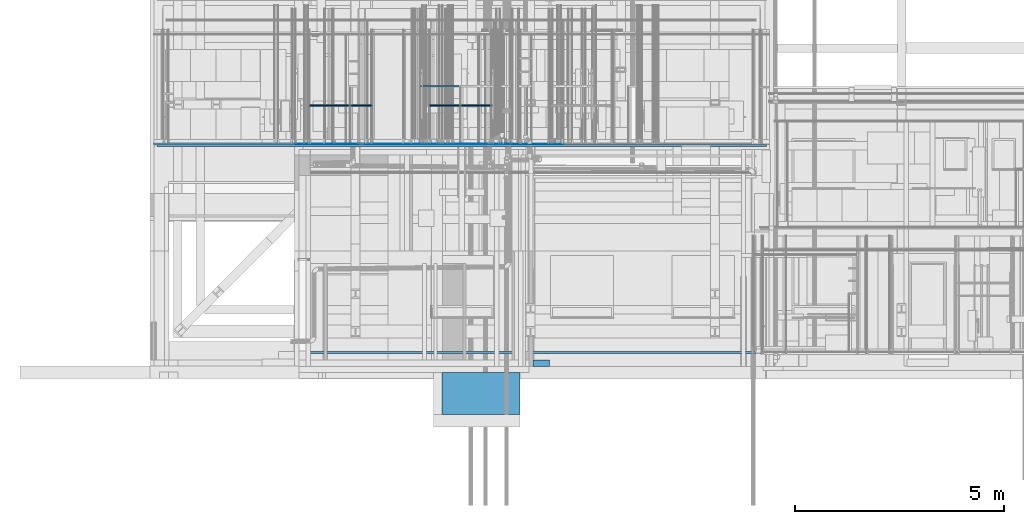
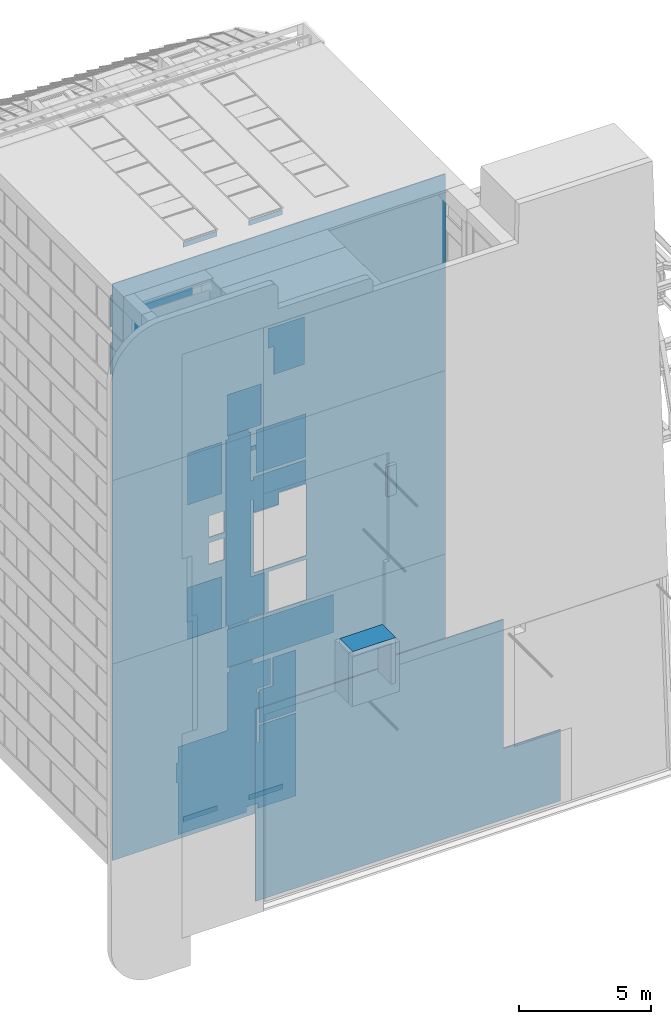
# One storey, part 244 of 583: 25 slabs.
"""IFC2X3 building model written with IfcOpenShell, lengths in metres."""

from ifc_helpers import new_model, entity, si_unit, converted_unit, derived_unit, money_unit, direction, frame, origin_with_axes, place, context, subcontext, project, spatial, faceted_brep, material, type_object, element, save


model = new_model("IFC2X3")

# Units and contexts
model_context = context("Model", 3, precision=1e-05, world=origin_with_axes(), true_north=direction((0.0, 1.0)))
body_context = subcontext(model_context, "Body", "Model", "MODEL_VIEW", scale=1.0)
ifc_project = project(units=[si_unit("LENGTHUNIT", "METRE"), si_unit("AREAUNIT", "SQUARE_METRE"), si_unit("VOLUMEUNIT", "CUBIC_METRE"), si_unit("ABSORBEDDOSEUNIT", "GRAY"), si_unit("AMOUNTOFSUBSTANCEUNIT", "MOLE"), si_unit("DOSEEQUIVALENTUNIT", "SIEVERT"), si_unit("ELECTRICCAPACITANCEUNIT", "FARAD"), si_unit("ELECTRICCHARGEUNIT", "COULOMB"), si_unit("ELECTRICCONDUCTANCEUNIT", "SIEMENS"), si_unit("ELECTRICCURRENTUNIT", "AMPERE"), si_unit("ELECTRICRESISTANCEUNIT", "OHM"), si_unit("ELECTRICVOLTAGEUNIT", "VOLT"), si_unit("ENERGYUNIT", "JOULE"), si_unit("FORCEUNIT", "NEWTON"), si_unit("FREQUENCYUNIT", "HERTZ"), si_unit("ILLUMINANCEUNIT", "LUX"), si_unit("INDUCTANCEUNIT", "HENRY"), si_unit("LUMINOUSFLUXUNIT", "LUMEN"), si_unit("LUMINOUSINTENSITYUNIT", "CANDELA"), si_unit("MAGNETICFLUXDENSITYUNIT", "TESLA"), si_unit("MAGNETICFLUXUNIT", "WEBER"), si_unit("MASSUNIT", "GRAM"), converted_unit("PLANEANGLEUNIT", "degree", entity("IfcReal", 0.0174532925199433), si_unit("PLANEANGLEUNIT", "RADIAN"), dimensions=[0, 0, 0, 0, 0, 0, 0]), si_unit("POWERUNIT", "WATT"), si_unit("PRESSUREUNIT", "PASCAL"), si_unit("RADIOACTIVITYUNIT", "BECQUEREL"), si_unit("SOLIDANGLEUNIT", "STERADIAN"), si_unit("THERMODYNAMICTEMPERATUREUNIT", "KELVIN"), si_unit("TIMEUNIT", "SECOND"), derived_unit("ACCELERATIONUNIT", [(si_unit("LENGTHUNIT", "METRE"), 1), (si_unit("TIMEUNIT", "SECOND"), -2)]), derived_unit("ANGULARVELOCITYUNIT", [(converted_unit("PLANEANGLEUNIT", "degree", entity("IfcReal", 0.0174532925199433), si_unit("PLANEANGLEUNIT", "RADIAN"), dimensions=[0, 0, 0, 0, 0, 0, 0]), 1), (si_unit("TIMEUNIT", "SECOND"), -1)]), derived_unit("CURVATUREUNIT", [(converted_unit("PLANEANGLEUNIT", "degree", entity("IfcReal", 0.0174532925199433), si_unit("PLANEANGLEUNIT", "RADIAN"), dimensions=[0, 0, 0, 0, 0, 0, 0]), 1), (si_unit("LENGTHUNIT", "METRE"), -1)]), derived_unit("DYNAMICVISCOSITYUNIT", [(si_unit("PRESSUREUNIT", "PASCAL"), 1), (si_unit("TIMEUNIT", "SECOND"), 1)]), derived_unit("HEATFLUXDENSITYUNIT", [(si_unit("POWERUNIT", "WATT"), 1), (si_unit("LENGTHUNIT", "METRE"), -2)]), derived_unit("HEATINGVALUEUNIT", [(si_unit("ENERGYUNIT", "JOULE"), 1), (si_unit("MASSUNIT", "GRAM"), -1)]), derived_unit("INTEGERCOUNTRATEUNIT", [(si_unit("TIMEUNIT", "SECOND"), -1)]), derived_unit("IONCONCENTRATIONUNIT", [(si_unit("MASSUNIT", "GRAM"), 1), (si_unit("VOLUMEUNIT", "CUBIC_METRE"), -1)]), derived_unit("ISOTHERMALMOISTURECAPACITYUNIT", [(si_unit("VOLUMEUNIT", "CUBIC_METRE"), 1), (si_unit("MASSUNIT", "GRAM"), -1)]), derived_unit("KINEMATICVISCOSITYUNIT", [(si_unit("AREAUNIT", "SQUARE_METRE"), 1), (si_unit("TIMEUNIT", "SECOND"), -1)]), derived_unit("LINEARFORCEUNIT", [(si_unit("FORCEUNIT", "NEWTON"), 1), (si_unit("LENGTHUNIT", "METRE"), -1)]), derived_unit("LINEARMOMENTUNIT", [(si_unit("FORCEUNIT", "NEWTON"), 1), (si_unit("LENGTHUNIT", "METRE"), -1)]), derived_unit("LINEARSTIFFNESSUNIT", [(si_unit("FORCEUNIT", "NEWTON"), 1), (si_unit("LENGTHUNIT", "METRE"), -1)]), derived_unit("LINEARVELOCITYUNIT", [(si_unit("LENGTHUNIT", "METRE"), 1), (si_unit("TIMEUNIT", "SECOND"), -1)]), derived_unit("LUMINOUSINTENSITYDISTRIBUTIONUNIT", [(si_unit("LUMINOUSINTENSITYUNIT", "CANDELA"), 1), (si_unit("LUMINOUSFLUXUNIT", "LUMEN"), -1)]), derived_unit("MASSDENSITYUNIT", [(si_unit("MASSUNIT", "GRAM"), 1), (si_unit("VOLUMEUNIT", "CUBIC_METRE"), -1)]), derived_unit("MASSFLOWRATEUNIT", [(si_unit("MASSUNIT", "GRAM"), 1), (si_unit("TIMEUNIT", "SECOND"), -1)]), derived_unit("MASSPERLENGTHUNIT", [(si_unit("MASSUNIT", "GRAM"), 1), (si_unit("LENGTHUNIT", "METRE"), -1)]), derived_unit("MODULUSOFELASTICITYUNIT", [(si_unit("FORCEUNIT", "NEWTON"), 1), (si_unit("AREAUNIT", "SQUARE_METRE"), -1)]), derived_unit("MODULUSOFLINEARSUBGRADEREACTIONUNIT", [(si_unit("FORCEUNIT", "NEWTON"), 1), (si_unit("LENGTHUNIT", "METRE"), -2)]), derived_unit("MODULUSOFROTATIONALSUBGRADEREACTIONUNIT", [(si_unit("FORCEUNIT", "NEWTON"), 1), (si_unit("LENGTHUNIT", "METRE"), 1)]), derived_unit("MODULUSOFSUBGRADEREACTIONUNIT", [(si_unit("FORCEUNIT", "NEWTON"), 1), (si_unit("VOLUMEUNIT", "CUBIC_METRE"), -1)]), derived_unit("MOISTUREDIFFUSIVITYUNIT", [(si_unit("VOLUMEUNIT", "CUBIC_METRE"), 1), (si_unit("TIMEUNIT", "SECOND"), -1)]), derived_unit("MOLECULARWEIGHTUNIT", [(si_unit("MASSUNIT", "GRAM"), 1), (si_unit("AMOUNTOFSUBSTANCEUNIT", "MOLE"), -1)]), derived_unit("PLANARFORCEUNIT", [(si_unit("FORCEUNIT", "NEWTON"), 1), (si_unit("LENGTHUNIT", "METRE"), -2)]), derived_unit("ROTATIONALFREQUENCYUNIT", [(si_unit("TIMEUNIT", "SECOND"), -1)]), derived_unit("ROTATIONALMASSUNIT", [(si_unit("MASSUNIT", "GRAM"), 1), (si_unit("LENGTHUNIT", "METRE"), 2)]), derived_unit("ROTATIONALSTIFFNESSUNIT", [(si_unit("FORCEUNIT", "NEWTON"), 1), (si_unit("LENGTHUNIT", "METRE"), 1), (converted_unit("PLANEANGLEUNIT", "degree", entity("IfcReal", 0.0174532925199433), si_unit("PLANEANGLEUNIT", "RADIAN"), dimensions=[0, 0, 0, 0, 0, 0, 0]), -1)]), derived_unit("SECTIONAREAINTEGRALUNIT", [(si_unit("LENGTHUNIT", "METRE"), 5)]), derived_unit("SECTIONMODULUSUNIT", [(si_unit("LENGTHUNIT", "METRE"), 3)]), derived_unit("SHEARMODULUSUNIT", [(si_unit("FORCEUNIT", "NEWTON"), 1), (si_unit("AREAUNIT", "SQUARE_METRE"), -1)]), derived_unit("SOUNDPOWERUNIT", [(si_unit("ENERGYUNIT", "JOULE"), 1), (si_unit("TIMEUNIT", "SECOND"), -1)]), derived_unit("SPECIFICHEATCAPACITYUNIT", [(si_unit("FORCEUNIT", "NEWTON"), 1), (si_unit("MASSUNIT", "GRAM"), -1), (si_unit("THERMODYNAMICTEMPERATUREUNIT", "KELVIN"), -1)]), derived_unit("TEMPERATUREGRADIENTUNIT", [(si_unit("THERMODYNAMICTEMPERATUREUNIT", "KELVIN"), 1), (si_unit("LENGTHUNIT", "METRE"), -1)]), derived_unit("THERMALADMITTANCEUNIT", [(si_unit("POWERUNIT", "WATT"), 1), (si_unit("AREAUNIT", "SQUARE_METRE"), -1), (si_unit("THERMODYNAMICTEMPERATUREUNIT", "KELVIN"), -1)]), derived_unit("THERMALCONDUCTANCEUNIT", [(si_unit("POWERUNIT", "WATT"), 1), (si_unit("LENGTHUNIT", "METRE"), -1), (si_unit("THERMODYNAMICTEMPERATUREUNIT", "KELVIN"), -1)]), derived_unit("THERMALEXPANSIONCOEFFICIENTUNIT", [(si_unit("THERMODYNAMICTEMPERATUREUNIT", "KELVIN"), -1)]), derived_unit("THERMALRESISTANCEUNIT", [(si_unit("AREAUNIT", "SQUARE_METRE"), 1), (si_unit("POWERUNIT", "WATT"), -1)]), derived_unit("THERMALTRANSMITTANCEUNIT", [(si_unit("POWERUNIT", "WATT"), 1), (si_unit("AREAUNIT", "SQUARE_METRE"), -1), (si_unit("THERMODYNAMICTEMPERATUREUNIT", "KELVIN"), -1)]), derived_unit("TORQUEUNIT", [(si_unit("FORCEUNIT", "NEWTON"), 1), (si_unit("LENGTHUNIT", "METRE"), 1)]), derived_unit("VAPORPERMEABILITYUNIT", [(si_unit("MASSUNIT", "GRAM"), 1), (si_unit("TIMEUNIT", "SECOND"), -1)]), derived_unit("VOLUMETRICFLOWRATEUNIT", [(si_unit("VOLUMEUNIT", "CUBIC_METRE"), 1), (si_unit("TIMEUNIT", "SECOND"), -1)]), derived_unit("WARPINGCONSTANTUNIT", [(si_unit("LENGTHUNIT", "METRE"), 6)]), derived_unit("WARPINGMOMENTUNIT", [(si_unit("FORCEUNIT", "NEWTON"), 1), (si_unit("LENGTHUNIT", "METRE"), 2)]), money_unit("GBP")], contexts=[model_context])

# Site, building, storey
site_placement = place(None, origin_with_axes())
site = spatial("IfcSite", under=ifc_project, at=site_placement, Name="Site", CompositionType="ELEMENT")
building_placement = place(site_placement, origin_with_axes())
building = spatial("IfcBuilding", under=site, at=building_placement, Name="Building01", CompositionType="ELEMENT")
storey_placement = place(building_placement, frame((0.0, 0.0, 20.78), z_axis=(0.0, 0.0, 1.0), x_axis=(1.0, 0.0, 0.0)))
storey = spatial("IfcBuildingStorey", under=building, at=storey_placement, Name="RL", CompositionType="ELEMENT", Elevation=20.78)

# Slabs
ifc_material_1 = material(Name="A_BSUK_Slabs")
slab_type = type_object("IfcSlabType", Name="A-FloorsSlabs A_BSUK_Slabs", PredefinedType="FLOOR")
placement = place(storey_placement, frame((0.0, 0.0, -20.78), z_axis=(0.0, 0.0, 1.0), x_axis=(1.0, 0.0, 0.0)))
element("IfcSlab", 1, at=placement, inside=storey, type_object=slab_type, material=ifc_material_1, Name="A-FloorsSlabs A_BSUK_Slabs", ObjectType="CompoundSlabLeaf", context=body_context, shape_type="Brep", body=[
    faceted_brep([(14.4, 0.148, 3.380525), (14.4, 0.198, 3.380525), (14.4, 0.198, 9.343127), (14.4, 0.148, 9.343127), (16.893628, 0.148, 3.380525), (16.893628, 0.198, 3.380525), (16.893493, 0.148, 0.089614), (16.893493, 0.198, 0.089614), (3.559332, 0.148, 0.10035), (3.559332, 0.198, 0.10035), (3.559165, 0.148, 8.965099), (3.559165, 0.198, 8.965099), (9.049365, 0.148, 8.965226), (9.049365, 0.198, 8.965226), (9.049365, 0.148, 9.343127), (9.049365, 0.198, 9.343127)], [[[0, 1, 2, 3]], [[4, 5, 1, 0]], [[6, 7, 5, 4]], [[8, 9, 7, 6]], [[10, 11, 9, 8]], [[12, 13, 11, 10]], [[14, 15, 13, 12]], [[3, 2, 15, 14]], [[1, 5, 7, 9, 11, 13, 15, 2]], [[3, 14, 12, 10, 8, 6, 4, 0]]]),
])
element("IfcSlab", 2, at=placement, inside=storey, type_object=slab_type, material=ifc_material_1, Name="A-FloorsSlabs A_BSUK_Slabs", ObjectType="CompoundSlabLeaf", context=body_context, shape_type="Brep", body=[
    faceted_brep([(8.64741, -1.3, 9.23), (8.64741, -0.3, 9.23), (8.84741, -0.3, 9.23), (8.84741, -1.3, 9.23), (8.64741, -1.3, 11.13), (8.64741, -0.3, 11.13), (6.98, -1.3, 11.13), (6.98, -0.3, 11.13), (6.98, -1.3, 11.33), (6.98, -0.3, 11.33), (8.84741, -1.3, 11.33), (8.84741, -0.3, 11.33), (8.84741, -1.3, 11.13), (8.84741, -0.3, 11.13)], [[[0, 1, 2, 3]], [[4, 5, 1, 0]], [[6, 7, 5, 4]], [[8, 9, 7, 6]], [[10, 11, 9, 8]], [[12, 13, 11, 10]], [[3, 2, 13, 12]], [[1, 5, 7, 9, 11, 13, 2]], [[3, 12, 10, 8, 6, 4, 0]]]),
])
element("IfcSlab", 3, at=placement, inside=storey, type_object=slab_type, material=ifc_material_1, Name="A-FloorsSlabs A_BSUK_Slabs", ObjectType="CompoundSlabLeaf", context=body_context, shape_type="Brep", body=[
    faceted_brep([(9.152854, -0.16, 17.018566), (9.152854, 0.0, 17.018566), (9.542818, 0.0, 17.018566), (9.542818, -0.16, 17.018566), (9.152854, -0.16, 18.418566), (9.152854, 0.0, 18.418566), (9.542765, -0.16, 18.418566), (9.542765, 0.0, 18.418566)], [[[0, 1, 2, 3]], [[4, 5, 1, 0]], [[6, 7, 5, 4]], [[3, 2, 7, 6]], [[1, 5, 7, 2]], [[3, 6, 4, 0]]]),
])
ifc_material_2 = material(Name="A_BSUK_InternalFinishes_FloorScreed")
element("IfcSlab", 4, at=placement, inside=storey, type_object=slab_type, material=ifc_material_2, Name="A-FloorsSlabs A_BSUK_Slabs", ObjectType="CompoundSlabLeaf", context=body_context, shape_type="Brep", body=[
    faceted_brep([(14.73, 5.1, 0.17), (14.73, 5.15, 0.17), (14.73, 5.15, 9.25), (14.73, 5.1, 9.25), (0.17, 5.1, 0.17), (0.17, 5.15, 0.17), (0.17, 5.1, 9.25), (0.17, 5.15, 9.25)], [[[0, 1, 2, 3]], [[4, 5, 1, 0]], [[6, 7, 5, 4]], [[3, 2, 7, 6]], [[1, 5, 7, 2]], [[3, 6, 4, 0]]]),
])
element("IfcSlab", 5, at=placement, inside=storey, type_object=slab_type, material=ifc_material_2, Name="A-FloorsSlabs A_BSUK_Slabs", ObjectType="CompoundSlabLeaf", context=body_context, shape_type="Brep", body=[
    faceted_brep([(14.73, 5.1, 17.73), (14.73, 5.15, 17.73), (14.73, 5.15, 26.81), (14.73, 5.1, 26.81), (0.17, 5.1, 17.73), (0.17, 5.15, 17.73), (0.17, 5.1, 26.81), (0.17, 5.15, 26.81)], [[[0, 1, 2, 3]], [[4, 5, 1, 0]], [[6, 7, 5, 4]], [[3, 2, 7, 6]], [[1, 5, 7, 2]], [[3, 6, 4, 0]]]),
])
element("IfcSlab", 6, at=placement, inside=storey, type_object=slab_type, material=ifc_material_2, Name="A-FloorsSlabs A_BSUK_Slabs", ObjectType="CompoundSlabLeaf", context=body_context, shape_type="Brep", body=[
    faceted_brep([(8.65, 5.15, 11.13), (6.98, 5.15, 11.13), (6.98, 5.15, 9.25), (0.17, 5.15, 9.25), (0.17, 5.15, 17.73), (14.73, 5.15, 17.73), (14.73, 5.15, 9.25), (8.65, 5.15, 9.25), (5.05385, 5.15, 13.375), (4.389428, 5.15, 13.375), (4.389428, 5.15, 12.375), (5.05385, 5.15, 12.375), (5.05385, 5.15, 14.625), (4.389428, 5.15, 14.625), (4.389428, 5.15, 13.625), (5.05385, 5.15, 13.625), (6.35, 5.15, 14.059316), (6.35, 5.15, 11.3), (8.65, 5.15, 11.3), (8.65, 5.15, 14.609584), (7.454282, 5.15, 14.609584), (7.454282, 5.15, 14.059316), (8.65, 5.1, 11.13), (8.65, 5.1, 9.25), (14.73, 5.1, 9.25), (14.73, 5.1, 17.73), (0.17, 5.1, 17.73), (0.17, 5.1, 9.25), (6.98, 5.1, 9.25), (6.98, 5.1, 11.13), (5.05385, 5.1, 13.375), (5.05385, 5.1, 12.375), (4.389428, 5.1, 12.375), (4.389428, 5.1, 13.375), (6.35, 5.1, 14.059316), (7.454282, 5.1, 14.059316), (7.454282, 5.1, 14.609584), (8.65, 5.1, 14.609584), (8.65, 5.1, 11.3), (6.35, 5.1, 11.3), (5.05385, 5.1, 14.625), (5.05385, 5.1, 13.625), (4.389428, 5.1, 13.625), (4.389428, 5.1, 14.625)], [[[0, 1, 2, 3, 4, 5, 6, 7], [8, 9, 10, 11], [12, 13, 14, 15], [16, 17, 18, 19, 20, 21]], [[22, 23, 24, 25, 26, 27, 28, 29], [30, 31, 32, 33], [34, 35, 36, 37, 38, 39], [40, 41, 42, 43]], [[23, 7, 6, 24]], [[2, 28, 27, 3]], [[35, 21, 20, 36]], [[24, 6, 5, 25]], [[26, 4, 3, 27]], [[25, 5, 4, 26]], [[15, 41, 40, 12]], [[12, 40, 43, 13]], [[13, 43, 42, 14]], [[14, 42, 41, 15]], [[11, 31, 30, 8]], [[8, 30, 33, 9]], [[9, 33, 32, 10]], [[10, 32, 31, 11]], [[18, 38, 37, 19]], [[19, 37, 36, 20]], [[17, 39, 38, 18]], [[16, 34, 39, 17]], [[21, 35, 34, 16]], [[0, 22, 29, 1]], [[7, 23, 22, 0]], [[1, 29, 28, 2]]]),
])
ifc_material_3 = material(Name="A_BSUK_Ceramic_WallTiles")
element("IfcSlab", 7, at=placement, inside=storey, type_object=slab_type, material=ifc_material_3, Name="A-FloorsSlabs A_BSUK_Slabs", ObjectType="CompoundSlabLeaf", context=body_context, shape_type="Brep", body=[
    faceted_brep([(6.475, 6.525, 16.03), (6.475, 6.55, 16.03), (6.475, 6.55, 15.83), (6.475, 6.525, 15.83), (7.849998, 6.525, 16.03), (7.849998, 6.55, 16.03), (7.85, 6.525, 15.830003), (7.85, 6.55, 15.830003)], [[[0, 1, 2, 3]], [[4, 5, 1, 0]], [[6, 7, 5, 4]], [[3, 2, 7, 6]], [[1, 5, 7, 2]], [[3, 6, 4, 0]]]),
])
ifc_material_4 = material(Name="A_BSUK_ExpandedPolystyreneBoards")
element("IfcSlab", 8, at=placement, inside=storey, type_object=slab_type, material=ifc_material_4, Name="A-FloorsSlabs A_BSUK_Slabs", ObjectType="CompoundSlabLeaf", context=body_context, shape_type="Brep", body=[
    faceted_brep([(5.205, 5.15, 7.289669), (5.205, 5.153, 7.289669), (9.862704, 5.153, 7.289669), (9.862704, 5.15, 7.289669), (5.205, 5.15, 9.06), (5.205, 5.153, 9.06), (6.607081, 5.15, 9.06), (6.607081, 5.153, 9.06), (8.372405, 5.15, 9.06), (8.372405, 5.153, 9.06), (8.9, 5.15, 9.06), (8.9, 5.153, 9.06), (9.862704, 5.15, 9.06), (9.862704, 5.153, 9.06)], [[[0, 1, 2, 3]], [[4, 5, 1, 0]], [[6, 7, 5, 4]], [[8, 9, 7, 6]], [[10, 11, 9, 8]], [[12, 13, 11, 10]], [[3, 2, 13, 12]], [[1, 5, 7, 9, 11, 13, 2]], [[3, 12, 10, 8, 6, 4, 0]]]),
])
element("IfcSlab", 9, at=placement, inside=storey, type_object=slab_type, material=ifc_material_4, Name="A-FloorsSlabs A_BSUK_Slabs", ObjectType="CompoundSlabLeaf", context=body_context, shape_type="Brep", body=[
    faceted_brep([(6.15, 5.15, 9.25), (6.15, 5.153, 9.25), (6.85, 5.153, 9.25), (6.85, 5.15, 9.25), (6.15, 5.15, 9.06), (6.15, 5.153, 9.06), (5.25, 5.15, 9.06), (5.25, 5.153, 9.06), (5.25, 5.15, 9.25), (5.25, 5.153, 9.25), (5.15, 5.15, 9.25), (5.15, 5.153, 9.25), (5.15, 5.15, 17.83), (5.15, 5.153, 17.83), (5.25, 5.15, 17.83), (5.25, 5.153, 17.83), (5.25, 5.15, 18.0), (5.25, 5.153, 18.0), (6.15, 5.15, 18.0), (6.15, 5.153, 18.0), (6.15, 5.15, 17.83), (6.15, 5.153, 17.83), (6.25, 5.15, 17.83), (6.25, 5.153, 17.83), (6.25, 5.15, 15.558), (6.25, 5.153, 15.558), (6.35, 5.15, 15.558), (6.35, 5.153, 15.558), (6.35, 5.15, 15.6), (6.35, 5.153, 15.6), (6.35, 5.15, 15.7), (6.35, 5.153, 15.7), (8.65, 5.15, 15.7), (8.65, 5.153, 15.7), (8.65, 5.15, 14.609584), (8.65, 5.153, 14.609584), (7.454282, 5.15, 14.609584), (7.454282, 5.153, 14.609584), (7.454282, 5.15, 14.059316), (7.454282, 5.153, 14.059316), (6.35, 5.15, 14.059316), (6.35, 5.153, 14.059316), (6.35, 5.15, 14.658), (6.35, 5.153, 14.658), (6.25, 5.15, 14.658), (6.25, 5.153, 14.658), (6.25, 5.15, 11.13), (6.25, 5.153, 11.13), (6.85, 5.15, 11.13), (6.85, 5.153, 11.13)], [[[0, 1, 2, 3]], [[4, 5, 1, 0]], [[6, 7, 5, 4]], [[8, 9, 7, 6]], [[10, 11, 9, 8]], [[12, 13, 11, 10]], [[14, 15, 13, 12]], [[16, 17, 15, 14]], [[18, 19, 17, 16]], [[20, 21, 19, 18]], [[22, 23, 21, 20]], [[24, 25, 23, 22]], [[26, 27, 25, 24]], [[28, 29, 27, 26]], [[30, 31, 29, 28]], [[32, 33, 31, 30]], [[34, 35, 33, 32]], [[36, 37, 35, 34]], [[38, 39, 37, 36]], [[40, 41, 39, 38]], [[42, 43, 41, 40]], [[44, 45, 43, 42]], [[46, 47, 45, 44]], [[48, 49, 47, 46]], [[3, 2, 49, 48]], [[1, 5, 7, 9, 11, 13, 15, 17, 19, 21, 23, 25, 27, 29, 31, 33, 35, 37, 39, 41, 43, 45, 47, 49, 2]], [[3, 48, 46, 44, 42, 40, 38, 36, 34, 32, 30, 28, 26, 24, 22, 20, 18, 16, 14, 12, 10, 8, 6, 4, 0]]]),
])
element("IfcSlab", 10, at=placement, inside=storey, type_object=slab_type, material=ifc_material_4, Name="A-FloorsSlabs A_BSUK_Slabs", ObjectType="CompoundSlabLeaf", context=body_context, shape_type="Brep", body=[
    faceted_brep([(6.69, 5.15, 18.0), (6.69, 5.153, 18.0), (6.69, 5.153, 19.897661), (6.69, 5.15, 19.897661), (5.205, 5.15, 18.0), (5.205, 5.153, 18.0), (5.205, 5.15, 19.897661), (5.205, 5.153, 19.897661)], [[[0, 1, 2, 3]], [[4, 5, 1, 0]], [[6, 7, 5, 4]], [[3, 2, 7, 6]], [[1, 5, 7, 2]], [[3, 6, 4, 0]]]),
])
ifc_material_5 = material(Name="A_BSUK_Ceramic_FloorTiles")
element("IfcSlab", 11, at=placement, inside=storey, type_object=slab_type, material=ifc_material_5, Name="A-FloorsSlabs A_BSUK_Slabs", ObjectType="CompoundSlabLeaf", context=body_context, shape_type="Brep", body=[
    faceted_brep([(6.475, 5.153, 15.83), (6.475, 5.165, 15.83), (8.65, 5.165, 15.83), (8.65, 5.153, 15.83), (6.475, 5.153, 17.83), (6.475, 5.165, 17.83), (8.65, 5.153, 17.83), (8.65, 5.165, 17.83)], [[[0, 1, 2, 3]], [[4, 5, 1, 0]], [[6, 7, 5, 4]], [[3, 2, 7, 6]], [[1, 5, 7, 2]], [[3, 6, 4, 0]]]),
])
ifc_material_6 = material(Name="A_BSUK_Parquet_Floor")
element("IfcSlab", 12, at=placement, inside=storey, type_object=slab_type, material=ifc_material_6, Name="A-FloorsSlabs A_BSUK_Slabs", ObjectType="CompoundSlabLeaf", context=body_context, shape_type="Brep", body=[
    faceted_brep([(5.357147, 5.153, 19.897661), (5.357147, 5.165, 19.897661), (6.357147, 5.165, 19.897661), (6.357147, 5.153, 19.897661), (5.357147, 5.153, 20.122661), (5.357147, 5.165, 20.122661), (5.205, 5.153, 20.122661), (5.205, 5.165, 20.122661), (5.205, 5.153, 22.625), (5.205, 5.165, 22.625), (0.1, 5.153, 22.625), (0.1, 5.165, 22.625), (0.1, 5.153, 24.095), (0.1, 5.165, 24.095), (0.318, 5.153, 24.095), (0.318, 5.165, 24.095), (0.318, 5.153, 24.815), (0.318, 5.165, 24.815), (0.1, 5.153, 24.815), (0.1, 5.165, 24.815), (0.1, 5.153, 26.285), (0.1, 5.165, 26.285), (0.448, 5.153, 26.285), (0.448, 5.165, 26.285), (0.448, 5.153, 26.662), (0.448, 5.165, 26.662), (3.82218, 5.153, 26.662), (3.82218, 5.165, 26.662), (5.29218, 5.153, 26.662), (5.29218, 5.165, 26.662), (6.052, 5.153, 26.662), (6.052, 5.165, 26.662), (6.052, 5.153, 26.432), (6.052, 5.165, 26.432), (6.548, 5.153, 26.432), (6.548, 5.165, 26.432), (6.548, 5.153, 26.662), (6.548, 5.165, 26.662), (6.682326, 5.153, 26.662), (6.682326, 5.165, 26.662), (8.152326, 5.153, 26.662), (8.152326, 5.165, 26.662), (8.352, 5.153, 26.662), (8.352, 5.165, 26.662), (8.352, 5.153, 26.432), (8.352, 5.165, 26.432), (8.595, 5.153, 26.432), (8.595, 5.165, 26.432), (8.595, 5.153, 22.571661), (8.595, 5.165, 22.571661), (7.0, 5.153, 22.571661), (7.0, 5.165, 22.571661), (7.0, 5.153, 23.271529), (7.0, 5.165, 23.271529), (6.905, 5.153, 23.271529), (6.905, 5.165, 23.271529), (6.905, 5.153, 22.326661), (6.905, 5.165, 22.326661), (7.0, 5.153, 22.326661), (7.0, 5.165, 22.326661), (7.0, 5.153, 21.576661), (7.0, 5.165, 21.576661), (6.905, 5.153, 21.576661), (6.905, 5.165, 21.576661), (6.905, 5.153, 21.322661), (6.905, 5.165, 21.322661), (7.155, 5.153, 21.322661), (7.155, 5.165, 21.322661), (7.155, 5.153, 20.122661), (7.155, 5.165, 20.122661), (6.905, 5.153, 20.122661), (6.905, 5.165, 20.122661), (6.357147, 5.153, 20.122661), (6.357147, 5.165, 20.122661)], [[[0, 1, 2, 3]], [[4, 5, 1, 0]], [[6, 7, 5, 4]], [[8, 9, 7, 6]], [[10, 11, 9, 8]], [[12, 13, 11, 10]], [[14, 15, 13, 12]], [[16, 17, 15, 14]], [[18, 19, 17, 16]], [[20, 21, 19, 18]], [[22, 23, 21, 20]], [[24, 25, 23, 22]], [[26, 27, 25, 24]], [[28, 29, 27, 26]], [[30, 31, 29, 28]], [[32, 33, 31, 30]], [[34, 35, 33, 32]], [[36, 37, 35, 34]], [[38, 39, 37, 36]], [[40, 41, 39, 38]], [[42, 43, 41, 40]], [[44, 45, 43, 42]], [[46, 47, 45, 44]], [[48, 49, 47, 46]], [[50, 51, 49, 48]], [[52, 53, 51, 50]], [[54, 55, 53, 52]], [[56, 57, 55, 54]], [[58, 59, 57, 56]], [[60, 61, 59, 58]], [[62, 63, 61, 60]], [[64, 65, 63, 62]], [[66, 67, 65, 64]], [[68, 69, 67, 66]], [[70, 71, 69, 68]], [[72, 73, 71, 70]], [[3, 2, 73, 72]], [[1, 5, 7, 9, 11, 13, 15, 17, 19, 21, 23, 25, 27, 29, 31, 33, 35, 37, 39, 41, 43, 45, 47, 49, 51, 53, 55, 57, 59, 61, 63, 65, 67, 69, 71, 73, 2]], [[3, 72, 70, 68, 66, 64, 62, 60, 58, 56, 54, 52, 50, 48, 46, 44, 42, 40, 38, 36, 34, 32, 30, 28, 26, 24, 22, 20, 18, 16, 14, 12, 10, 8, 6, 4, 0]]]),
])
element("IfcSlab", 13, at=placement, inside=storey, type_object=slab_type, material=ifc_material_5, Name="A-FloorsSlabs A_BSUK_Slabs", ObjectType="CompoundSlabLeaf", context=body_context, shape_type="Brep", body=[
    faceted_brep([(8.595, 5.153, 20.122661), (8.595, 5.165, 20.122661), (8.595, 5.165, 22.326661), (8.595, 5.153, 22.326661), (7.25, 5.153, 20.122661), (7.25, 5.165, 20.122661), (7.25, 5.153, 21.417661), (7.25, 5.165, 21.417661), (7.0, 5.153, 21.417661), (7.0, 5.165, 21.417661), (7.0, 5.153, 22.326661), (7.0, 5.165, 22.326661)], [[[0, 1, 2, 3]], [[4, 5, 1, 0]], [[6, 7, 5, 4]], [[8, 9, 7, 6]], [[10, 11, 9, 8]], [[3, 2, 11, 10]], [[1, 5, 7, 9, 11, 2]], [[3, 10, 8, 6, 4, 0]]]),
])
element("IfcSlab", 14, at=placement, inside=storey, type_object=slab_type, material=ifc_material_5, Name="A-FloorsSlabs A_BSUK_Slabs", ObjectType="CompoundSlabLeaf", context=body_context, shape_type="Brep", body=[
    faceted_brep([(4.98, 5.153, 15.4075), (4.98, 5.165, 15.4075), (4.98, 5.165, 17.8075), (4.98, 5.153, 17.8075), (4.259428, 5.153, 15.4075), (4.259428, 5.165, 15.4075), (3.48, 5.153, 15.4075), (3.48, 5.165, 15.4075), (3.48, 5.153, 17.8075), (3.48, 5.165, 17.8075)], [[[0, 1, 2, 3]], [[4, 5, 1, 0]], [[6, 7, 5, 4]], [[8, 9, 7, 6]], [[3, 2, 9, 8]], [[1, 5, 7, 9, 2]], [[3, 8, 6, 4, 0]]]),
])
element("IfcSlab", 15, at=placement, inside=storey, type_object=slab_type, material=ifc_material_5, Name="A-FloorsSlabs A_BSUK_Slabs", ObjectType="CompoundSlabLeaf", context=body_context, shape_type="Brep", body=[
    faceted_brep([(4.98, 5.153, 9.192536), (4.98, 5.165, 9.192536), (4.98, 5.165, 11.592536), (4.98, 5.153, 11.592536), (3.48, 5.153, 9.192536), (3.48, 5.165, 9.192536), (3.48, 5.153, 11.592536), (3.48, 5.165, 11.592536), (4.259428, 5.153, 11.592536), (4.259428, 5.165, 11.592536)], [[[0, 1, 2, 3]], [[4, 5, 1, 0]], [[6, 7, 5, 4]], [[8, 9, 7, 6]], [[3, 2, 9, 8]], [[1, 5, 7, 9, 2]], [[3, 8, 6, 4, 0]]]),
])
element("IfcSlab", 16, at=placement, inside=storey, type_object=slab_type, material=ifc_material_6, Name="A-FloorsSlabs A_BSUK_Slabs", ObjectType="CompoundSlabLeaf", context=body_context, shape_type="Brep", body=[
    faceted_brep([(6.316475, 5.153, 7.289669), (6.316475, 5.165, 7.289669), (5.316475, 5.165, 7.289669), (5.316475, 5.153, 7.289669), (6.316475, 5.153, 7.064669), (6.316475, 5.165, 7.064669), (7.111475, 5.153, 7.064669), (7.111475, 5.165, 7.064669), (7.111475, 5.153, 5.864669), (7.111475, 5.165, 5.864669), (6.511475, 5.153, 5.864669), (6.511475, 5.165, 5.864669), (6.511475, 5.153, 5.679088), (6.511475, 5.165, 5.679088), (6.606475, 5.153, 5.679088), (6.606475, 5.165, 5.679088), (6.606475, 5.153, 4.929088), (6.606475, 5.165, 4.929088), (6.511475, 5.153, 4.929088), (6.511475, 5.165, 4.929088), (6.511475, 5.153, 3.37073), (6.511475, 5.165, 3.37073), (6.606475, 5.153, 3.37073), (6.606475, 5.165, 3.37073), (6.606475, 5.153, 4.14573), (6.606475, 5.165, 4.14573), (8.21067, 5.153, 4.14573), (8.21067, 5.165, 4.14573), (8.21067, 5.153, 0.318), (8.21067, 5.165, 0.318), (8.185, 5.153, 0.318), (8.185, 5.165, 0.318), (6.69218, 5.153, 0.318), (6.69218, 5.165, 0.318), (6.548, 5.153, 0.318), (6.548, 5.165, 0.318), (6.548, 5.153, 0.548), (6.548, 5.165, 0.548), (6.052, 5.153, 0.548), (6.052, 5.165, 0.548), (6.052, 5.153, 0.318), (6.052, 5.165, 0.318), (5.315, 5.153, 0.318), (5.315, 5.165, 0.318), (3.82218, 5.153, 0.318), (3.82218, 5.165, 0.318), (3.065286, 5.153, 0.318), (3.065286, 5.165, 0.318), (3.065286, 5.153, 2.751), (3.065286, 5.165, 2.751), (2.970286, 5.153, 2.751), (2.970286, 5.165, 2.751), (2.970286, 5.153, 3.651), (2.970286, 5.165, 3.651), (3.065286, 5.153, 3.651), (3.065286, 5.165, 3.651), (3.065286, 5.153, 4.385), (3.065286, 5.165, 4.385), (5.205, 5.153, 4.385), (5.205, 5.165, 4.385), (5.205, 5.153, 7.064669), (5.205, 5.165, 7.064669), (5.316475, 5.153, 7.064669), (5.316475, 5.165, 7.064669)], [[[0, 1, 2, 3]], [[4, 5, 1, 0]], [[6, 7, 5, 4]], [[8, 9, 7, 6]], [[10, 11, 9, 8]], [[12, 13, 11, 10]], [[14, 15, 13, 12]], [[16, 17, 15, 14]], [[18, 19, 17, 16]], [[20, 21, 19, 18]], [[22, 23, 21, 20]], [[24, 25, 23, 22]], [[26, 27, 25, 24]], [[28, 29, 27, 26]], [[30, 31, 29, 28]], [[32, 33, 31, 30]], [[34, 35, 33, 32]], [[36, 37, 35, 34]], [[38, 39, 37, 36]], [[40, 41, 39, 38]], [[42, 43, 41, 40]], [[44, 45, 43, 42]], [[46, 47, 45, 44]], [[48, 49, 47, 46]], [[50, 51, 49, 48]], [[52, 53, 51, 50]], [[54, 55, 53, 52]], [[56, 57, 55, 54]], [[58, 59, 57, 56]], [[60, 61, 59, 58]], [[62, 63, 61, 60]], [[3, 2, 63, 62]], [[1, 5, 7, 9, 11, 13, 15, 17, 19, 21, 23, 25, 27, 29, 31, 33, 35, 37, 39, 41, 43, 45, 47, 49, 51, 53, 55, 57, 59, 61, 63, 2]], [[3, 62, 60, 58, 56, 54, 52, 50, 48, 46, 44, 42, 40, 38, 36, 34, 32, 30, 28, 26, 24, 22, 20, 18, 16, 14, 12, 10, 8, 6, 4, 0]]]),
])
element("IfcSlab", 17, at=placement, inside=storey, type_object=slab_type, material=ifc_material_5, Name="A-FloorsSlabs A_BSUK_Slabs", ObjectType="CompoundSlabLeaf", context=body_context, shape_type="Brep", body=[
    faceted_brep([(8.21067, 5.153, 4.24073), (8.21067, 5.165, 4.24073), (8.21067, 5.165, 7.064669), (8.21067, 5.153, 7.064669), (6.606475, 5.153, 4.24073), (6.606475, 5.165, 4.24073), (6.606475, 5.153, 5.769669), (6.606475, 5.165, 5.769669), (7.206475, 5.153, 5.769669), (7.206475, 5.165, 5.769669), (7.206475, 5.153, 7.064669), (7.206475, 5.165, 7.064669)], [[[0, 1, 2, 3]], [[4, 5, 1, 0]], [[6, 7, 5, 4]], [[8, 9, 7, 6]], [[10, 11, 9, 8]], [[3, 2, 11, 10]], [[1, 5, 7, 9, 11, 2]], [[3, 10, 8, 6, 4, 0]]]),
])
ifc_material_7 = material(Name="A_BSUK_Carpet-Pile")
element("IfcSlab", 18, at=placement, inside=storey, type_object=slab_type, material=ifc_material_7, Name="A-FloorsSlabs A_BSUK_Slabs", ObjectType="CompoundSlabLeaf", context=body_context, shape_type="Brep", body=[
    faceted_brep([(9.862704, 5.153, 7.289669), (9.862704, 5.165, 7.289669), (9.862704, 5.165, 9.06), (9.862704, 5.153, 9.06), (5.205, 5.153, 7.289669), (5.205, 5.165, 7.289669), (5.205, 5.153, 9.06), (5.205, 5.165, 9.06), (6.968405, 5.153, 9.06), (6.968405, 5.165, 9.06), (6.968405, 5.153, 8.658), (6.968405, 5.165, 8.658), (7.610847, 5.153, 8.658), (7.610847, 5.165, 8.658), (8.372405, 5.153, 8.658), (8.372405, 5.165, 8.658), (8.372405, 5.153, 9.06), (8.372405, 5.165, 9.06)], [[[0, 1, 2, 3]], [[4, 5, 1, 0]], [[6, 7, 5, 4]], [[8, 9, 7, 6]], [[10, 11, 9, 8]], [[12, 13, 11, 10]], [[14, 15, 13, 12]], [[16, 17, 15, 14]], [[3, 2, 17, 16]], [[1, 5, 7, 9, 11, 13, 15, 17, 2]], [[3, 16, 14, 12, 10, 8, 6, 4, 0]]]),
])
element("IfcSlab", 19, at=placement, inside=storey, type_object=slab_type, material=ifc_material_7, Name="A-FloorsSlabs A_BSUK_Slabs", ObjectType="CompoundSlabLeaf", context=body_context, shape_type="Brep", body=[
    faceted_brep([(5.25, 5.153, 9.06), (5.25, 5.165, 9.06), (6.15, 5.165, 9.06), (6.15, 5.153, 9.06), (5.25, 5.153, 9.25), (5.25, 5.165, 9.25), (5.15, 5.153, 9.25), (5.15, 5.165, 9.25), (5.15, 5.153, 17.83), (5.15, 5.165, 17.83), (6.25, 5.153, 17.83), (6.25, 5.165, 17.83), (6.25, 5.153, 14.658), (6.25, 5.165, 14.658), (6.25, 5.153, 11.13), (6.25, 5.165, 11.13), (6.85, 5.153, 11.13), (6.85, 5.165, 11.13), (6.85, 5.153, 9.25), (6.85, 5.165, 9.25), (6.15, 5.153, 9.25), (6.15, 5.165, 9.25)], [[[0, 1, 2, 3]], [[4, 5, 1, 0]], [[6, 7, 5, 4]], [[8, 9, 7, 6]], [[10, 11, 9, 8]], [[12, 13, 11, 10]], [[14, 15, 13, 12]], [[16, 17, 15, 14]], [[18, 19, 17, 16]], [[20, 21, 19, 18]], [[3, 2, 21, 20]], [[1, 5, 7, 9, 11, 13, 15, 17, 19, 21, 2]], [[3, 20, 18, 16, 14, 12, 10, 8, 6, 4, 0]]]),
])
element("IfcSlab", 20, at=placement, inside=storey, type_object=slab_type, material=ifc_material_7, Name="A-FloorsSlabs A_BSUK_Slabs", ObjectType="CompoundSlabLeaf", context=body_context, shape_type="Brep", body=[
    faceted_brep([(7.454282, 5.153, 14.609584), (7.454282, 5.165, 14.609584), (8.65, 5.165, 14.609584), (8.65, 5.153, 14.609584), (7.454282, 5.153, 14.059316), (7.454282, 5.165, 14.059316), (6.35, 5.153, 14.059316), (6.35, 5.165, 14.059316), (6.35, 5.153, 14.658), (6.35, 5.165, 14.658), (6.25, 5.153, 14.658), (6.25, 5.165, 14.658), (6.25, 5.153, 15.558), (6.25, 5.165, 15.558), (6.35, 5.153, 15.558), (6.35, 5.165, 15.558), (6.35, 5.153, 15.7), (6.35, 5.165, 15.7), (8.65, 5.153, 15.7), (8.65, 5.165, 15.7)], [[[0, 1, 2, 3]], [[4, 5, 1, 0]], [[6, 7, 5, 4]], [[8, 9, 7, 6]], [[10, 11, 9, 8]], [[12, 13, 11, 10]], [[14, 15, 13, 12]], [[16, 17, 15, 14]], [[18, 19, 17, 16]], [[3, 2, 19, 18]], [[1, 5, 7, 9, 11, 13, 15, 17, 19, 2]], [[3, 18, 16, 14, 12, 10, 8, 6, 4, 0]]]),
])
element("IfcSlab", 21, at=placement, inside=storey, type_object=slab_type, material=ifc_material_7, Name="A-FloorsSlabs A_BSUK_Slabs", ObjectType="CompoundSlabLeaf", context=body_context, shape_type="Brep", body=[
    faceted_brep([(6.705, 5.153, 18.0), (6.705, 5.165, 18.0), (6.705, 5.165, 19.897661), (6.705, 5.153, 19.897661), (6.15, 5.153, 18.0), (6.15, 5.165, 18.0), (6.15, 5.153, 17.83), (6.15, 5.165, 17.83), (5.25, 5.153, 17.83), (5.25, 5.165, 17.83), (5.25, 5.153, 18.0), (5.25, 5.165, 18.0), (5.205, 5.153, 18.0), (5.205, 5.165, 18.0), (5.205, 5.153, 19.897661), (5.205, 5.165, 19.897661)], [[[0, 1, 2, 3]], [[4, 5, 1, 0]], [[6, 7, 5, 4]], [[8, 9, 7, 6]], [[10, 11, 9, 8]], [[12, 13, 11, 10]], [[14, 15, 13, 12]], [[3, 2, 15, 14]], [[1, 5, 7, 9, 11, 13, 15, 2]], [[3, 14, 12, 10, 8, 6, 4, 0]]]),
])
ifc_material_8 = material(Name="A_BSUK_Timber_Miscellaneous")
element("IfcSlab", 22, at=placement, inside=storey, type_object=slab_type, material=ifc_material_8, Name="A-FloorsSlabs A_BSUK_Slabs", ObjectType="CompoundSlabLeaf", context=body_context, shape_type="Brep", body=[
    faceted_brep([(6.682326, 6.065, 26.88), (6.682326, 6.09, 26.88), (6.682326, 6.09, 26.646998), (6.682326, 6.065, 26.646998), (8.152326, 6.065, 26.88), (8.152326, 6.09, 26.88), (8.152326, 6.065, 26.647), (8.152326, 6.09, 26.647)], [[[0, 1, 2, 3]], [[4, 5, 1, 0]], [[6, 7, 5, 4]], [[3, 2, 7, 6]], [[1, 5, 7, 2]], [[3, 6, 4, 0]]]),
])
element("IfcSlab", 23, at=placement, inside=storey, type_object=slab_type, material=ifc_material_8, Name="A-FloorsSlabs A_BSUK_Slabs", ObjectType="CompoundSlabLeaf", context=body_context, shape_type="Brep", body=[
    faceted_brep([(3.82218, 6.065, 26.88), (3.82218, 6.09, 26.88), (3.82218, 6.09, 26.646998), (3.82218, 6.065, 26.646998), (5.29218, 6.065, 26.88), (5.29218, 6.09, 26.88), (5.29218, 6.065, 26.647), (5.29218, 6.09, 26.647)], [[[0, 1, 2, 3]], [[4, 5, 1, 0]], [[6, 7, 5, 4]], [[3, 2, 7, 6]], [[1, 5, 7, 2]], [[3, 6, 4, 0]]]),
])
element("IfcSlab", 24, at=placement, inside=storey, type_object=slab_type, material=ifc_material_8, Name="A-FloorsSlabs A_BSUK_Slabs", ObjectType="CompoundSlabLeaf", context=body_context, shape_type="Brep", body=[
    faceted_brep([(3.82218, 6.065, 0.333), (3.82218, 6.09, 0.333), (3.82218, 6.09, 0.099998), (3.82218, 6.065, 0.099998), (5.315, 6.065, 0.333), (5.315, 6.09, 0.333), (5.315, 6.065, 0.1), (5.315, 6.09, 0.1)], [[[0, 1, 2, 3]], [[4, 5, 1, 0]], [[6, 7, 5, 4]], [[3, 2, 7, 6]], [[1, 5, 7, 2]], [[3, 6, 4, 0]]]),
])
element("IfcSlab", 25, at=placement, inside=storey, type_object=slab_type, material=ifc_material_8, Name="A-FloorsSlabs A_BSUK_Slabs", ObjectType="CompoundSlabLeaf", context=body_context, shape_type="Brep", body=[
    faceted_brep([(6.69218, 6.065, 0.333), (6.69218, 6.09, 0.333), (6.69218, 6.09, 0.099998), (6.69218, 6.065, 0.099998), (8.185, 6.065, 0.333), (8.185, 6.09, 0.333), (8.185, 6.065, 0.1), (8.185, 6.09, 0.1)], [[[0, 1, 2, 3]], [[4, 5, 1, 0]], [[6, 7, 5, 4]], [[3, 2, 7, 6]], [[1, 5, 7, 2]], [[3, 6, 4, 0]]]),
])

save(model, "model.ifc")
